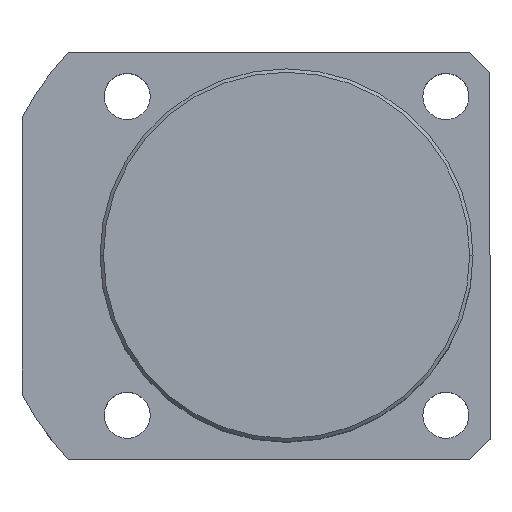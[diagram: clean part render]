
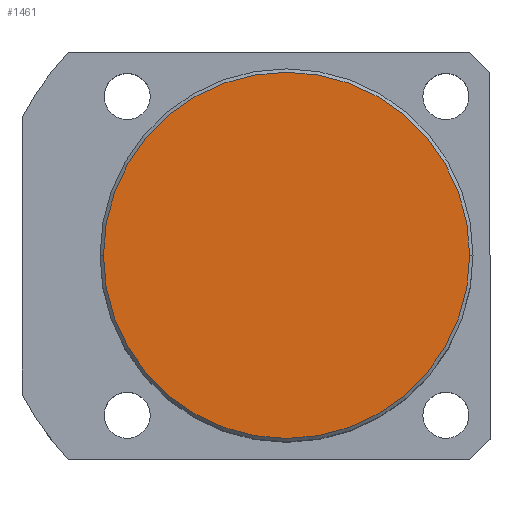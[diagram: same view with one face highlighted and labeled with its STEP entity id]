
A CAD part, top view. The second image highlights one B-rep face of the part: STEP entity #1461.
In plain terms, the highlighted planar face has unit normal (0, 0, 1).
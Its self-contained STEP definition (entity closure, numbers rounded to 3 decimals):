
#108 = CARTESIAN_POINT ( 'NONE',  ( 0., 0., 55. ) ) ;
#127 = PLANE ( 'NONE',  #2850 ) ;
#314 = ORIENTED_EDGE ( 'NONE', *, *, #1492, .T. ) ;
#512 = DIRECTION ( 'NONE',  ( 1., 0., 0. ) ) ;
#684 = FACE_OUTER_BOUND ( 'NONE', #1205, .T. ) ;
#844 = VERTEX_POINT ( 'NONE', #2341 ) ;
#1205 = EDGE_LOOP ( 'NONE', ( #314, #1699 ) ) ;
#1461 = ADVANCED_FACE ( 'NONE', ( #684 ), #127, .T. ) ;
#1492 = EDGE_CURVE ( 'NONE', #844, #3347, #1687, .T. ) ;
#1679 = CARTESIAN_POINT ( 'NONE',  ( 0., 0., 55. ) ) ;
#1687 = CIRCLE ( 'NONE', #3117, 27. ) ;
#1699 = ORIENTED_EDGE ( 'NONE', *, *, #2946, .T. ) ;
#2064 = DIRECTION ( 'NONE',  ( 0., 0., 1. ) ) ;
#2082 = DIRECTION ( 'NONE',  ( 1., 0., 0. ) ) ;
#2341 = CARTESIAN_POINT ( 'NONE',  ( -27., 0., 55. ) ) ;
#2446 = CIRCLE ( 'NONE', #4995, 27. ) ;
#2850 = AXIS2_PLACEMENT_3D ( 'NONE', #3276, #2064, #4833 ) ;
#2854 = DIRECTION ( 'NONE',  ( 0., 0., 1. ) ) ;
#2946 = EDGE_CURVE ( 'NONE', #3347, #844, #2446, .T. ) ;
#3117 = AXIS2_PLACEMENT_3D ( 'NONE', #1679, #4454, #2082 ) ;
#3276 = CARTESIAN_POINT ( 'NONE',  ( 0., 0., 55. ) ) ;
#3347 = VERTEX_POINT ( 'NONE', #3892 ) ;
#3892 = CARTESIAN_POINT ( 'NONE',  ( 27., 0., 55. ) ) ;
#4454 = DIRECTION ( 'NONE',  ( 0., 0., 1. ) ) ;
#4833 = DIRECTION ( 'NONE',  ( 1., 0., 0. ) ) ;
#4995 = AXIS2_PLACEMENT_3D ( 'NONE', #108, #2854, #512 ) ;
